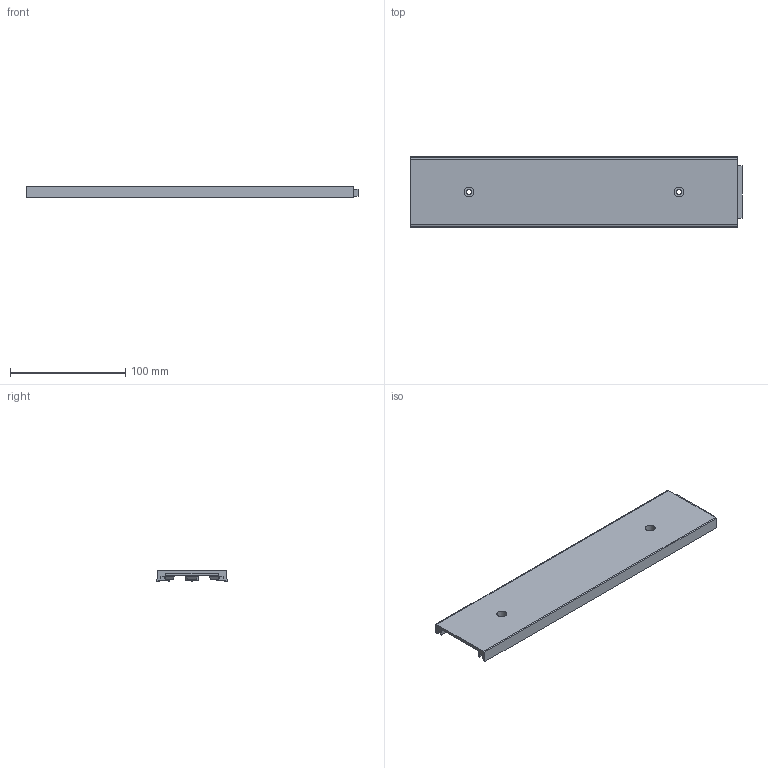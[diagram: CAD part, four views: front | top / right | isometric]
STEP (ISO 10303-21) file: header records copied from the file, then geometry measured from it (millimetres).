
FILE_DESCRIPTION(/* description */ ('Unknown'),/* implementation_level */ '2;1');
FILE_NAME(/* name */ '021-B0K-05',/* time_stamp */ '2025-06-23T13:38:17+02:00',/* author */ ('Unknown'),/* organization */ ('Unknown'),/* preprocessor_version */ 'ST-DEVELOPER v16.7',/* originating_system */ 'Solid Edge',/* authorisation */ 'Unknown');
FILE_SCHEMA (('AUTOMOTIVE_DESIGN {1 0 10303 214 3 1 1}'));
Length unit declared in the file: millimetre
Products named in the file (1): 021-B0K-05
Bounding box: 287.8 x 61 x 9.95 mm (x, y, z)
Volume: 70960.9 mm3; surface area: 54270.3 mm2
Topology: 1 solids, 1 shells, 1285 faces, 3598 edges, 2399 vertices
Faces by surface type: plane 1211, cylinder 47, bspline 27
Full cylindrical faces by diameter (mm): 1.3 x2, 4.5 x2, 6 x1, 8.5 x2, 11 x2
Entity records: 50496 total; most frequent: CARTESIAN_POINT 8564, ORIENTED_EDGE 7158, DIRECTION 6125, EDGE_CURVE 3579, LINE 3341, VECTOR 3341, VERTEX_POINT 2393, AXIS2_PLACEMENT_3D 1392
